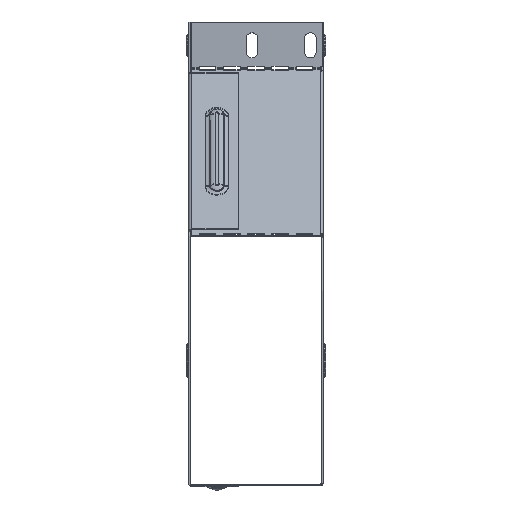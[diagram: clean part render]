
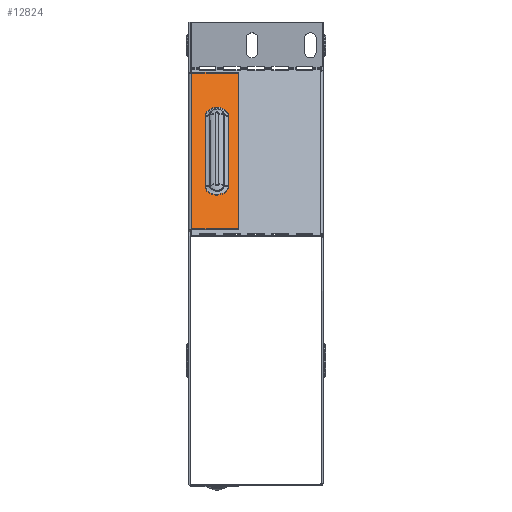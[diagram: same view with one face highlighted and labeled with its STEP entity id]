
A CAD part, left-side view. The second image highlights one B-rep face of the part: STEP entity #12824.
In plain terms, the highlighted planar face has unit normal (-0.707, 0, 0.707).
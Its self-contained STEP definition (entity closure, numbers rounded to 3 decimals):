
#120 = DIRECTION ( 'NONE',  ( -0.5, 0.707, -0.5 ) ) ;
#165 = ORIENTED_EDGE ( 'NONE', *, *, #5752, .T. ) ;
#458 = AXIS2_PLACEMENT_3D ( 'NONE', #15943, #17907, #21755 ) ;
#1223 = DIRECTION ( 'NONE',  ( 0.707, 0., 0.707 ) ) ;
#1312 = VECTOR ( 'NONE', #23248, 1000. ) ;
#1368 = ORIENTED_EDGE ( 'NONE', *, *, #14840, .T. ) ;
#1562 = VECTOR ( 'NONE', #22134, 1000. ) ;
#1764 = ORIENTED_EDGE ( 'NONE', *, *, #16539, .F. ) ;
#2016 = CARTESIAN_POINT ( 'NONE',  ( -104.725, 63.9, 222.152 ) ) ;
#2276 = EDGE_CURVE ( 'NONE', #9051, #7836, #18595, .T. ) ;
#2365 = FACE_BOUND ( 'NONE', #21113, .T. ) ;
#2538 = CARTESIAN_POINT ( 'NONE',  ( -147.152, 56.983, 179.725 ) ) ;
#3048 = PLANE ( 'NONE',  #458 ) ;
#3507 = VECTOR ( 'NONE', #1223, 1000. ) ;
#3534 = VECTOR ( 'NONE', #7893, 1000. ) ;
#3587 = CIRCLE ( 'NONE', #24163, 6.917 ) ;
#3733 = ORIENTED_EDGE ( 'NONE', *, *, #2276, .F. ) ;
#4704 = EDGE_CURVE ( 'NONE', #13098, #10030, #11875, .T. ) ;
#5671 = VERTEX_POINT ( 'NONE', #23702 ) ;
#5752 = EDGE_CURVE ( 'NONE', #9051, #11164, #12631, .T. ) ;
#5833 = LINE ( 'NONE', #11200, #17647 ) ;
#6664 = VERTEX_POINT ( 'NONE', #22433 ) ;
#7396 = CARTESIAN_POINT ( 'NONE',  ( -147.152, 63.9, 179.725 ) ) ;
#7836 = VERTEX_POINT ( 'NONE', #21141 ) ;
#7893 = DIRECTION ( 'NONE',  ( 0., 1., 0. ) ) ;
#8243 = AXIS2_PLACEMENT_3D ( 'NONE', #2016, #11418, #120 ) ;
#8437 = ORIENTED_EDGE ( 'NONE', *, *, #14856, .T. ) ;
#9051 = VERTEX_POINT ( 'NONE', #18438 ) ;
#9321 = DIRECTION ( 'NONE',  ( 0.707, 0., 0.707 ) ) ;
#9908 = CARTESIAN_POINT ( 'NONE',  ( -78.96, 50.8, 247.917 ) ) ;
#10030 = VERTEX_POINT ( 'NONE', #2538 ) ;
#10785 = CARTESIAN_POINT ( 'NONE',  ( -104.725, 56.983, 222.152 ) ) ;
#11164 = VERTEX_POINT ( 'NONE', #9908 ) ;
#11200 = CARTESIAN_POINT ( 'NONE',  ( -76.838, 79., 250.038 ) ) ;
#11299 = LINE ( 'NONE', #23180, #16016 ) ;
#11418 = DIRECTION ( 'NONE',  ( 0.707, 0., -0.707 ) ) ;
#11535 = CIRCLE ( 'NONE', #8243, 6.917 ) ;
#11875 = LINE ( 'NONE', #10785, #1562 ) ;
#12631 = LINE ( 'NONE', #23880, #3507 ) ;
#12824 = ADVANCED_FACE ( 'NONE', ( #2365, #13863 ), #3048, .F. ) ;
#13096 = ORIENTED_EDGE ( 'NONE', *, *, #17849, .T. ) ;
#13098 = VERTEX_POINT ( 'NONE', #22700 ) ;
#13863 = FACE_OUTER_BOUND ( 'NONE', #16733, .T. ) ;
#14840 = EDGE_CURVE ( 'NONE', #20759, #13098, #11535, .T. ) ;
#14856 = EDGE_CURVE ( 'NONE', #10030, #6664, #3587, .T. ) ;
#15530 = ORIENTED_EDGE ( 'NONE', *, *, #19886, .F. ) ;
#15943 = CARTESIAN_POINT ( 'NONE',  ( -163.438, 80.8, 163.438 ) ) ;
#16016 = VECTOR ( 'NONE', #16457, 1000. ) ;
#16457 = DIRECTION ( 'NONE',  ( 0., -1., 0. ) ) ;
#16539 = EDGE_CURVE ( 'NONE', #7836, #5671, #5833, .T. ) ;
#16683 = LINE ( 'NONE', #20507, #1312 ) ;
#16733 = EDGE_LOOP ( 'NONE', ( #3733, #165, #15530, #1764 ) ) ;
#17647 = VECTOR ( 'NONE', #9321, 1000. ) ;
#17849 = EDGE_CURVE ( 'NONE', #6664, #20759, #16683, .T. ) ;
#17907 = DIRECTION ( 'NONE',  ( 0.707, 0., -0.707 ) ) ;
#18438 = CARTESIAN_POINT ( 'NONE',  ( -172.917, 50.8, 153.96 ) ) ;
#18595 = LINE ( 'NONE', #22867, #3534 ) ;
#18784 = DIRECTION ( 'NONE',  ( -0.5, 0.707, -0.5 ) ) ;
#19886 = EDGE_CURVE ( 'NONE', #5671, #11164, #11299, .T. ) ;
#20507 = CARTESIAN_POINT ( 'NONE',  ( -104.725, 70.817, 222.152 ) ) ;
#20525 = CARTESIAN_POINT ( 'NONE',  ( -104.725, 70.817, 222.152 ) ) ;
#20759 = VERTEX_POINT ( 'NONE', #20525 ) ;
#20907 = ORIENTED_EDGE ( 'NONE', *, *, #4704, .T. ) ;
#21113 = EDGE_LOOP ( 'NONE', ( #13096, #1368, #20907, #8437 ) ) ;
#21141 = CARTESIAN_POINT ( 'NONE',  ( -172.917, 79., 153.96 ) ) ;
#21755 = DIRECTION ( 'NONE',  ( -0.707, 0., -0.707 ) ) ;
#22134 = DIRECTION ( 'NONE',  ( -0.707, 0., -0.707 ) ) ;
#22433 = CARTESIAN_POINT ( 'NONE',  ( -147.152, 70.817, 179.725 ) ) ;
#22444 = DIRECTION ( 'NONE',  ( 0.707, 0., -0.707 ) ) ;
#22700 = CARTESIAN_POINT ( 'NONE',  ( -104.725, 56.983, 222.152 ) ) ;
#22867 = CARTESIAN_POINT ( 'NONE',  ( -172.917, 81.899, 153.96 ) ) ;
#23180 = CARTESIAN_POINT ( 'NONE',  ( -78.96, 80.8, 247.917 ) ) ;
#23248 = DIRECTION ( 'NONE',  ( 0.707, 0., 0.707 ) ) ;
#23702 = CARTESIAN_POINT ( 'NONE',  ( -78.96, 79., 247.917 ) ) ;
#23880 = CARTESIAN_POINT ( 'NONE',  ( -163.438, 50.8, 163.438 ) ) ;
#24163 = AXIS2_PLACEMENT_3D ( 'NONE', #7396, #22444, #18784 ) ;
